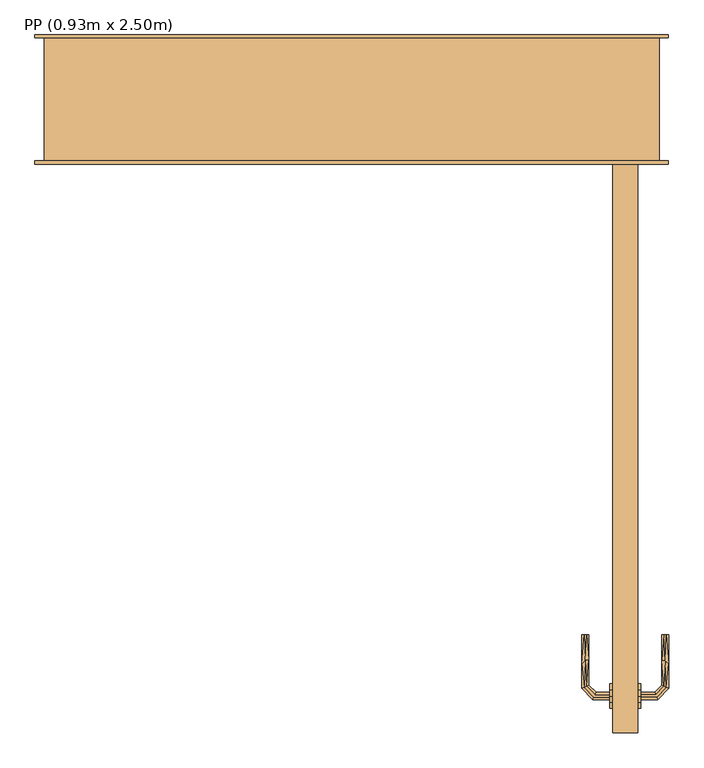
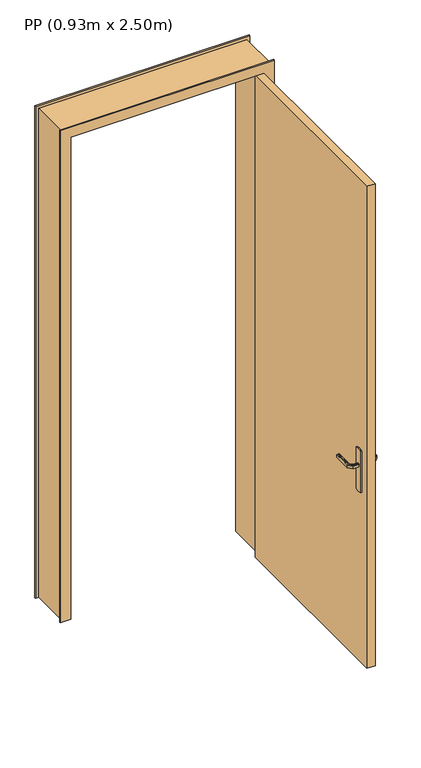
"""IFC4 building model written with IfcOpenShell, lengths in millimetres: door geometry, PP (0.93m x 2.50m)."""

from ifc_helpers import new_model, si_unit, frame, origin, origin_with_axes, place, context, project, spatial, polyline, outline, extrude, faceted_brep, source, transform, mapped, element, save


def pp_0_93m_x_2_50m_d39329f3(model_context):
    return source(origin(), model_context, "Body", "SolidModel", [
        faceted_brep([(920.0, -872.0252987, 1007.7804408), (920.0, -876.0, 1007.0), (920.0, -876.0, 993.0), (920.0, -872.0252987, 992.2195592), (920.0, -867.9747013, 992.2195592), (920.0, -864.0, 993.0), (920.0, -864.0, 1007.0), (920.0, -867.9747013, 1007.7804408), (897.5147955, -864.0, 993.0), (897.5147955, -864.0, 1007.0), (895.8684203, -867.9747013, 1007.7804408), (882.0548128, -854.1610938, 1007.7804408), (878.0042155, -855.8389062, 1007.7804408), (894.1906079, -872.0252987, 1007.7804408), (892.5442327, -876.0, 1007.0), (892.5442327, -876.0, 993.0), (894.1906079, -872.0252987, 992.2195592), (878.0042155, -855.8389062, 992.2195592), (882.0548128, -854.1610938, 992.2195592), (895.8684203, -867.9747013, 992.2195592), (886.0295141, -852.5147186, 993.0), (886.0295141, -852.5147186, 1007.0), (874.0295141, -857.4852814, 1007.0), (874.0295141, -857.4852814, 993.0), (886.0295141, -769.9542163, 993.0), (882.0548128, -769.9542163, 992.2195592), (878.0042155, -769.9542163, 992.2195592), (874.0295141, -769.9542163, 993.0), (874.0295141, -769.9542163, 1007.0), (878.0042155, -769.9542163, 1007.7804408), (882.0548128, -769.9542163, 1007.7804408), (886.0295141, -769.9542163, 1007.0), (886.0295141, -811.2344794, 993.0), (886.0295141, -811.2344675, 1007.0), (880.0295141, -812.0576551, 1007.8786868), (874.0295141, -817.5547942, 1007.0), (874.0295141, -817.5547957, 993.0), (880.0295142, -812.0576549, 992.1213132)], [[[0, 1, 2, 3, 4, 5, 6, 7]], [[6, 5, 8, 9]], [[9, 10, 7, 6]], [[10, 11, 12, 13, 0, 7]], [[13, 14, 1, 0]], [[2, 1, 14, 15]], [[15, 16, 3, 2]], [[16, 17, 18, 19, 4, 3]], [[19, 8, 5, 4]], [[9, 8, 20, 21]], [[21, 11, 10, 9]], [[12, 22, 14, 13]], [[15, 14, 22, 23]], [[23, 17, 16, 15]], [[18, 20, 8, 19]], [[24, 25, 26, 27, 28, 29, 30, 31]], [[21, 20, 32, 24, 31, 33]], [[33, 30, 34]], [[35, 34, 29]], [[21, 33, 11]], [[33, 31, 30]], [[28, 35, 29]], [[22, 12, 35]], [[35, 12, 34]], [[12, 11, 34]], [[11, 33, 34]], [[29, 34, 30]], [[22, 35, 28, 27, 36, 23]], [[36, 26, 37]], [[27, 26, 36]], [[17, 23, 36]], [[37, 32, 18]], [[20, 18, 32]], [[32, 25, 24]], [[26, 25, 37]], [[25, 32, 37]], [[17, 36, 37]], [[17, 37, 18]]]),
        faceted_brep([(0.0, 200.0, 0.0), (-15.0, 200.0, 0.0), (-15.0, 205.0, 0.0), (50.0, 205.0, 0.0), (50.0, 40.0, 0.0), (35.0, 40.0, 0.0), (35.0, -5.0, 0.0), (-15.0, -5.0, 0.0), (-15.0, 0.0, 0.0), (0.0, 0.0, 0.0), (0.0, 200.0, 2485.0), (1000.0, 200.0, 2485.0), (1000.0, 200.0, 0.0), (1015.0, 200.0, 0.0), (1015.0, 200.0, 2500.0), (-15.0, 200.0, 2500.0), (-15.0, 205.0, 2500.0), (1015.0, 205.0, 2500.0), (1015.0, 205.0, 0.0), (950.0, 205.0, 0.0), (950.0, 205.0, 2435.0), (50.0, 205.0, 2435.0), (50.0, 40.0, 2435.0), (950.0, 40.0, 2435.0), (950.0, 40.0, 0.0), (965.0, 40.0, 0.0), (965.0, 40.0, 2450.0), (35.0, 40.0, 2450.0), (35.0, -5.0, 2450.0), (965.0, -5.0, 2450.0), (965.0, -5.0, 0.0), (1015.0, -5.0, 0.0), (1015.0, -5.0, 2500.0), (-15.0, -5.0, 2500.0), (-15.0, 0.0, 2500.0), (1015.0, 0.0, 2500.0), (1015.0, 0.0, 0.0), (1000.0, 0.0, 0.0), (1000.0, 0.0, 2485.0), (0.0, 0.0, 2485.0)], [[[0, 1, 2, 3, 4, 5, 6, 7, 8, 9]], [[1, 0, 10, 11, 12, 13, 14, 15]], [[2, 1, 15, 16]], [[3, 2, 16, 17, 18, 19, 20, 21]], [[3, 21, 22, 4]], [[5, 4, 22, 23, 24, 25, 26, 27]], [[5, 27, 28, 6]], [[7, 6, 28, 29, 30, 31, 32, 33]], [[8, 7, 33, 34]], [[9, 8, 34, 35, 36, 37, 38, 39]], [[0, 9, 39, 10]], [[11, 38, 37, 12]], [[12, 37, 36, 31, 30, 25, 24, 19, 18, 13]], [[17, 14, 13, 18]], [[23, 20, 19, 24]], [[29, 26, 25, 30]], [[35, 32, 31, 36]], [[16, 15, 14, 17]], [[22, 21, 20, 23]], [[28, 27, 26, 29]], [[34, 33, 32, 35]], [[10, 39, 38, 11]]]),
        faceted_brep([(970.0, -872.0252987, 1007.7804408), (970.0, -867.9747013, 1007.7804408), (970.0, -864.0, 1007.0), (970.0, -864.0, 993.0), (970.0, -867.9747013, 992.2195592), (970.0, -872.0252987, 992.2195592), (970.0, -876.0, 993.0), (970.0, -876.0, 1007.0), (997.6509507, -876.0, 1007.0), (996.0045755, -872.0252987, 1007.7804408), (1012.0534593, -855.9764148, 1007.7804408), (1008.002862, -854.2986025, 1007.7804408), (994.3267632, -867.9747013, 1007.7804408), (992.680388, -864.0, 1007.0), (992.680388, -864.0, 993.0), (994.3267632, -867.9747013, 992.2195592), (1008.002862, -854.2986025, 992.2195592), (1012.0534593, -855.9764148, 992.2195592), (996.0045755, -872.0252987, 992.2195592), (997.6509507, -876.0, 993.0), (1016.0281607, -857.62279, 1007.0), (1004.0281607, -852.6522273, 1007.0), (1004.0281607, -852.6522273, 993.0), (1016.0281607, -857.62279, 993.0), (1016.0281607, -769.9813594, 993.0), (1012.0534593, -769.9813594, 992.2195592), (1008.002862, -769.9813594, 992.2195592), (1004.0281607, -769.9813594, 993.0), (1004.0281607, -769.9813594, 1007.0), (1008.002862, -769.9813594, 1007.7804408), (1012.0534593, -769.9813594, 1007.7804408), (1016.0281607, -769.9813594, 1007.0), (1016.0281607, -817.6923028, 1007.0), (1010.0281607, -812.1399809, 1007.8786868), (1004.0281607, -811.3167933, 1007.0), (1004.0281607, -811.3167933, 993.0), (1010.0281608, -812.1399811, 992.1213132), (1016.0281607, -817.6922998, 993.0)], [[[0, 1, 2, 3, 4, 5, 6, 7]], [[8, 9, 0, 7]], [[9, 10, 11, 12, 1, 0]], [[12, 13, 2, 1]], [[3, 2, 13, 14]], [[14, 15, 4, 3]], [[15, 16, 17, 18, 5, 4]], [[18, 19, 6, 5]], [[7, 6, 19, 8]], [[20, 10, 9, 8]], [[11, 21, 13, 12]], [[14, 13, 21, 22]], [[22, 16, 15, 14]], [[17, 23, 19, 18]], [[8, 19, 23, 20]], [[24, 25, 26, 27, 28, 29, 30, 31]], [[32, 30, 33]], [[31, 30, 32]], [[10, 20, 32]], [[33, 34, 11]], [[21, 11, 34]], [[34, 29, 28]], [[30, 29, 33]], [[29, 34, 33]], [[10, 32, 33]], [[10, 33, 11]], [[22, 21, 34, 28, 27, 35]], [[35, 26, 36]], [[37, 36, 25]], [[22, 35, 16]], [[35, 27, 26]], [[24, 37, 25]], [[23, 17, 37]], [[37, 17, 36]], [[17, 16, 36]], [[16, 35, 36]], [[25, 36, 26]], [[20, 23, 37, 24, 31, 32]]]),
        extrude(outline(polyline([(-859.6472382, 1083.9960169), (-850.0, 1080.0), (-850.0, 870.0), (-859.6472382, 866.0039831), (-870.0, 864.6410162), (-880.3527618, 866.0039831), (-890.0, 870.0), (-890.0, 1080.0), (-880.3527618, 1083.9960169), (-870.0, 1085.3589838), (-859.6472382, 1083.9960169)])), frame((965.0, 0.0, 0.0), z_axis=(1.0, 0.0, 0.0), x_axis=(0.0, 1.0, 0.0)), (0.0, 0.0, 1.0), 5.0),
        extrude(outline(polyline([(925.0, -930.0), (925.0, 0.0), (965.0, 0.0), (965.0, -930.0), (925.0, -930.0)])), origin_with_axes(), (0.0, 0.0, 1.0), 2450.0),
        extrude(outline(polyline([(-859.6472382, 1083.9960169), (-850.0, 1080.0), (-850.0, 870.0), (-859.6472382, 866.0039831), (-870.0, 864.6410162), (-880.3527618, 866.0039831), (-890.0, 870.0), (-890.0, 1080.0), (-880.3527618, 1083.9960169), (-870.0, 1085.3589838), (-859.6472382, 1083.9960169)])), frame((920.0, 0.0, 0.0), z_axis=(1.0, 0.0, 0.0), x_axis=(0.0, 1.0, 0.0)), (0.0, 0.0, 1.0), 5.0),
    ])


if __name__ == "__main__":
    model = new_model("IFC4")
    model_context = context("Model", 3, world=origin())
    ifc_project = project(units=[si_unit("LENGTHUNIT", "METRE", prefix="MILLI")], contexts=[model_context])
    site = spatial("IfcSite", under=ifc_project)
    building = spatial("IfcBuilding", under=site)
    placement = place(None, origin())
    pp_0_93m_x_2_50m_shape = pp_0_93m_x_2_50m_d39329f3(model_context)
    element("IfcDoor", 1, ObjectType="PP (0.93m x 2.50m)", at=placement, inside=building, context=model_context, shape_type="MappedRepresentation", body=[
        mapped(pp_0_93m_x_2_50m_shape, transform((0.0, 0.0, 0.0), x_axis=(1.0, 0.0, 0.0), y_axis=(0.0, 1.0, 0.0), z_axis=(0.0, 0.0, 1.0))),
    ])
    save(model, "model.ifc")
